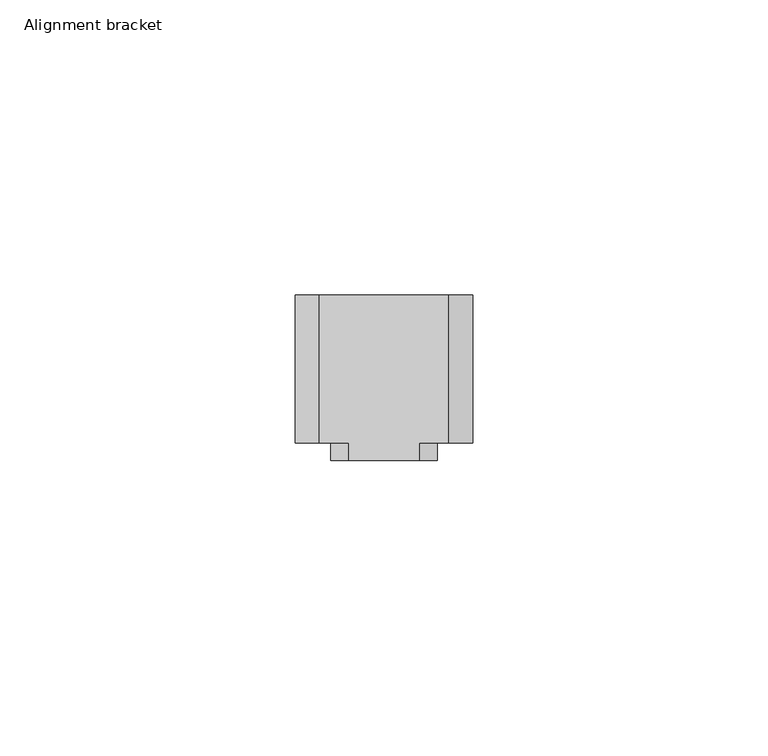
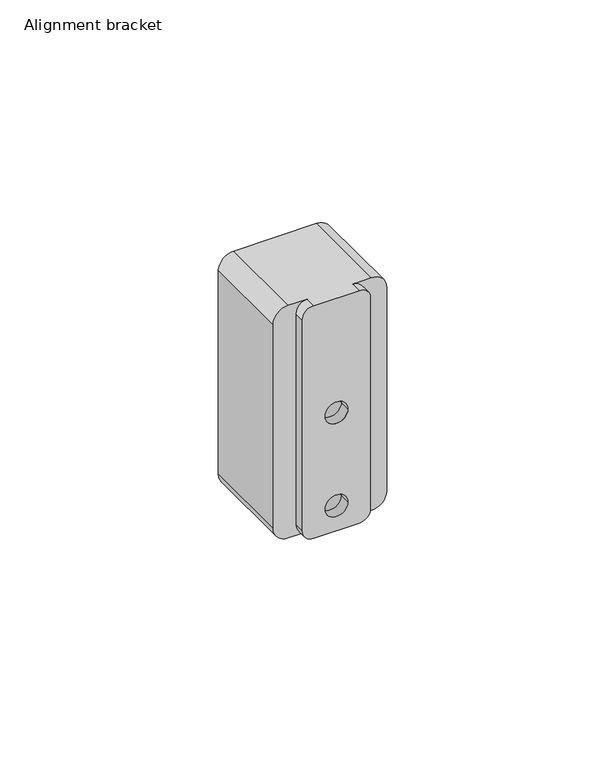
"""IFC4 building model written with IfcOpenShell, lengths in millimetres: proxy geometry, GROVIK_Gutter_Alignment bracket : Alignment bracket."""

from ifc_helpers import new_model, si_unit, frame, origin, place, context, project, spatial, polyline, circle_curve, source, transform, mapped, element, save
from ifc_brep_helpers import plane_surface, cylinder_surface, revolved_surface, advanced_brep


def alignment_bracket_76c64be8(model_context):
    return source(origin(), model_context, "Body", "AdvancedBrep", [
        advanced_brep(
        [(-6.5, 5.5, 62.5), (-6.5, 5.5, 34.25), (-12.5, 5.5, 34.25), (-12.5, 5.5, 61.0), (-11.0, 5.5, 62.5), (6.5, 5.5, 34.25), (6.5, 5.5, 62.5), (11.0, 5.5, 62.5), (12.5, 5.5, 61.0), (12.5, 5.5, 34.25), (6.5, 5.5, 2.5), (6.5, 5.5, 31.75), (12.5, 5.5, 31.75), (12.5, 5.5, 4.0), (11.0, 5.5, 2.5), (-6.5, 5.5, 31.75), (-6.5, 5.5, 2.5), (-11.0, 5.5, 2.5), (-12.5, 5.5, 4.0), (-12.5, 5.5, 31.75), (-15.0, 3.0, 4.0), (-11.0, 3.0, 0.0), (-6.0, 3.0, 0.0), (-9.0, 3.0, 3.0), (-9.0, 3.0, 62.0), (-6.0, 3.0, 65.0), (-11.0, 3.0, 65.0), (-15.0, 3.0, 61.0), (11.0, 3.0, 0.0), (15.0, 3.0, 4.0), (15.0, 3.0, 61.0), (11.0, 3.0, 65.0), (6.0, 3.0, 65.0), (9.0, 3.0, 62.0), (9.0, 3.0, 3.0), (6.0, 3.0, 0.0), (-6.5, 3.0, 62.5), (-6.5, 3.0, 34.25), (6.5, 3.0, 34.25), (6.5, 3.0, 62.5), (6.5, 3.0, 2.5), (6.5, 3.0, 31.75), (-6.5, 3.0, 31.75), (-6.5, 3.0, 2.5), (-15.0, 28.0, 4.0), (-15.0, 28.0, 61.0), (-11.0, 28.0, 65.0), (11.0, 28.0, 65.0), (15.0, 28.0, 61.0), (15.0, 28.0, 4.0), (11.0, 28.0, 0.0), (-11.0, 28.0, 0.0), (-12.5, 28.0, 34.25), (-5.3560713, 28.0, 34.25), (5.3560713, 28.0, 34.25), (12.5, 28.0, 34.25), (12.5, 28.0, 61.0), (11.0, 28.0, 62.5), (-11.0, 28.0, 62.5), (-12.5, 28.0, 61.0), (5.3560713, 28.0, 31.75), (-5.3560713, 28.0, 31.75), (-12.5, 28.0, 31.75), (-12.5, 28.0, 4.0), (-11.0, 28.0, 2.5), (-3.1622777, 28.0, 2.5), (3.1622777, 28.0, 2.5), (11.0, 28.0, 2.5), (12.5, 28.0, 4.0), (12.5, 28.0, 31.75), (-3.0, 28.0, 33.0), (3.0, 28.0, 33.0), (-3.0, 28.0, 7.0), (3.0, 28.0, 7.0), (5.3560713, 3.0, 34.25), (-5.3560713, 3.0, 34.25), (6.0, 0.0, 0.0), (-6.0, 0.0, 0.0), (-6.0, 0.0, 65.0), (6.0, 0.0, 65.0), (5.3560713, 3.0, 31.75), (3.1622777, 3.0, 2.5), (-3.1622777, 3.0, 2.5), (-5.3560713, 3.0, 31.75), (3.0, 3.0, 33.0), (-3.0, 3.0, 33.0), (3.0, 3.0, 7.0), (-3.0, 3.0, 7.0), (-9.0, 0.0, 3.0), (9.0, 0.0, 3.0), (9.0, 0.0, 62.0), (-9.0, 0.0, 62.0), (-3.0, 0.0, 33.0), (3.0, 0.0, 33.0), (-3.0, 0.0, 7.0), (3.0, 0.0, 7.0)],
        [
            (0, 1),
            (1, 2),
            (2, 3),
            (3, 4, circle_curve(frame((-11.0, 5.5, 61.0), z_axis=(0.0, 1.0, 0.0), x_axis=(-1.0, 0.0, 0.0)), 1.5)),
            (4, 0),
            (5, 6),
            (6, 7),
            (7, 8, circle_curve(frame((11.0, 5.5, 61.0), z_axis=(0.0, 1.0, 0.0), x_axis=(1.0, 0.0, 0.0)), 1.5)),
            (8, 9),
            (9, 5),
            (10, 11),
            (11, 12),
            (12, 13),
            (13, 14, circle_curve(frame((11.0, 5.5, 4.0), z_axis=(0.0, 1.0, 0.0), x_axis=(1.0, 0.0, 0.0)), 1.5)),
            (14, 10),
            (15, 16),
            (16, 17),
            (17, 18, circle_curve(frame((-11.0, 5.5, 4.0), z_axis=(0.0, 1.0, 0.0), x_axis=(-1.0, 0.0, 0.0)), 1.5)),
            (18, 19),
            (19, 15),
            (20, 21, circle_curve(frame((-11.0, 3.0, 4.0), z_axis=(0.0, -1.0, 0.0), x_axis=(-1.0, 0.0, 0.0)), 4.0)),
            (21, 22),
            (22, 23, circle_curve(frame((-6.0, 3.0, 3.0), z_axis=(0.0, 1.0, 0.0), x_axis=(-1.0, 0.0, 0.0)), 3.0)),
            (23, 24),
            (24, 25, circle_curve(frame((-6.0, 3.0, 62.0), z_axis=(0.0, 1.0, 0.0), x_axis=(-1.0, 0.0, 0.0)), 3.0)),
            (25, 26),
            (26, 27, circle_curve(frame((-11.0, 3.0, 61.0), z_axis=(0.0, -1.0, 0.0), x_axis=(-1.0, 0.0, 0.0)), 4.0)),
            (27, 20),
            (28, 29, circle_curve(frame((11.0, 3.0, 4.0), z_axis=(0.0, -1.0, 0.0), x_axis=(1.0, 0.0, 0.0)), 4.0)),
            (29, 30),
            (30, 31, circle_curve(frame((11.0, 3.0, 61.0), z_axis=(0.0, -1.0, 0.0), x_axis=(1.0, 0.0, 0.0)), 4.0)),
            (31, 32),
            (32, 33, circle_curve(frame((6.0, 3.0, 62.0), z_axis=(0.0, 1.0, 0.0), x_axis=(1.0, 0.0, 0.0)), 3.0)),
            (33, 34),
            (34, 35, circle_curve(frame((6.0, 3.0, 3.0), z_axis=(0.0, 1.0, 0.0), x_axis=(1.0, 0.0, 0.0)), 3.0)),
            (35, 28),
            (0, 36),
            (36, 37),
            (37, 1),
            (5, 38),
            (38, 39),
            (39, 6),
            (10, 40),
            (40, 41),
            (41, 11),
            (15, 42),
            (42, 43),
            (43, 16),
            (44, 45),
            (45, 46, circle_curve(frame((-11.0, 28.0, 61.0), z_axis=(0.0, 1.0, 0.0), x_axis=(-1.0, 0.0, 0.0)), 4.0)),
            (46, 47),
            (47, 48, circle_curve(frame((11.0, 28.0, 61.0), z_axis=(0.0, 1.0, 0.0), x_axis=(1.0, 0.0, 0.0)), 4.0)),
            (48, 49),
            (49, 50, circle_curve(frame((11.0, 28.0, 4.0), z_axis=(0.0, 1.0, 0.0), x_axis=(1.0, 0.0, 0.0)), 4.0)),
            (50, 51),
            (51, 44, circle_curve(frame((-11.0, 28.0, 4.0), z_axis=(0.0, 1.0, 0.0), x_axis=(-1.0, 0.0, 0.0)), 4.0)),
            (52, 53),
            (53, 54, circle_curve(frame((0.0, 28.0, 33.0), z_axis=(0.0, 1.0, 0.0), x_axis=(1.0, 0.0, 0.0)), 5.5)),
            (54, 55),
            (55, 56),
            (56, 57, circle_curve(frame((11.0, 28.0, 61.0), z_axis=(0.0, -1.0, 0.0), x_axis=(1.0, 0.0, 0.0)), 1.5)),
            (57, 58),
            (58, 59, circle_curve(frame((-11.0, 28.0, 61.0), z_axis=(0.0, -1.0, 0.0), x_axis=(-1.0, 0.0, 0.0)), 1.5)),
            (59, 52),
            (60, 61, circle_curve(frame((0.0, 28.0, 33.0), z_axis=(0.0, 1.0, 0.0), x_axis=(1.0, 0.0, 0.0)), 5.5)),
            (61, 62),
            (62, 63),
            (63, 64, circle_curve(frame((-11.0, 28.0, 4.0), z_axis=(0.0, -1.0, 0.0), x_axis=(-1.0, 0.0, 0.0)), 1.5)),
            (64, 65),
            (65, 66, circle_curve(frame((0.0, 28.0, 7.0), z_axis=(0.0, 1.0, 0.0), x_axis=(1.0, 0.0, 0.0)), 5.5)),
            (66, 67),
            (67, 68, circle_curve(frame((11.0, 28.0, 4.0), z_axis=(0.0, -1.0, 0.0), x_axis=(1.0, 0.0, 0.0)), 1.5)),
            (68, 69),
            (69, 60),
            (70, 71, circle_curve(frame((0.0, 28.0, 33.0), z_axis=(0.0, -1.0, 0.0), x_axis=(1.0, 0.0, 0.0)), 3.0)),
            (71, 70, circle_curve(frame((0.0, 28.0, 33.0), z_axis=(0.0, -1.0, 0.0), x_axis=(1.0, 0.0, 0.0)), 3.0)),
            (72, 73, circle_curve(frame((0.0, 28.0, 7.0), z_axis=(0.0, -1.0, 0.0), x_axis=(1.0, 0.0, 0.0)), 3.0)),
            (73, 72, circle_curve(frame((0.0, 28.0, 7.0), z_axis=(0.0, -1.0, 0.0), x_axis=(1.0, 0.0, 0.0)), 3.0)),
            (59, 3),
            (2, 52),
            (58, 4),
            (57, 7),
            (39, 36),
            (56, 8),
            (55, 9),
            (54, 74),
            (74, 38),
            (53, 75),
            (75, 74, circle_curve(frame((0.0, 3.0, 33.0), z_axis=(0.0, 1.0, 0.0), x_axis=(1.0, 0.0, 0.0)), 5.5)),
            (37, 75),
            (51, 21),
            (20, 44),
            (50, 28),
            (35, 76),
            (76, 77),
            (77, 22),
            (49, 29),
            (48, 30),
            (47, 31),
            (46, 26),
            (25, 78),
            (78, 79),
            (79, 32),
            (45, 27),
            (69, 12),
            (41, 80),
            (80, 60),
            (68, 13),
            (67, 14),
            (66, 81),
            (81, 40),
            (65, 82),
            (82, 81, circle_curve(frame((0.0, 3.0, 7.0), z_axis=(0.0, 1.0, 0.0), x_axis=(1.0, 0.0, 0.0)), 5.5)),
            (64, 17),
            (43, 82),
            (63, 18),
            (62, 19),
            (61, 83),
            (83, 42),
            (80, 83, circle_curve(frame((0.0, 3.0, 33.0), z_axis=(0.0, 1.0, 0.0), x_axis=(1.0, 0.0, 0.0)), 5.5)),
            (71, 84),
            (84, 85, circle_curve(frame((0.0, 3.0, 33.0), z_axis=(0.0, -1.0, 0.0), x_axis=(1.0, 0.0, 0.0)), 3.0)),
            (85, 70),
            (85, 84, circle_curve(frame((0.0, 3.0, 33.0), z_axis=(0.0, -1.0, 0.0), x_axis=(1.0, 0.0, 0.0)), 3.0)),
            (73, 86),
            (86, 87, circle_curve(frame((0.0, 3.0, 7.0), z_axis=(0.0, -1.0, 0.0), x_axis=(1.0, 0.0, 0.0)), 3.0)),
            (87, 72),
            (87, 86, circle_curve(frame((0.0, 3.0, 7.0), z_axis=(0.0, -1.0, 0.0), x_axis=(1.0, 0.0, 0.0)), 3.0)),
            (88, 77, circle_curve(frame((-6.0, 0.0, 3.0), z_axis=(0.0, -1.0, 0.0), x_axis=(-1.0, 0.0, 0.0)), 3.0)),
            (76, 89, circle_curve(frame((6.0, 0.0, 3.0), z_axis=(0.0, -1.0, 0.0), x_axis=(1.0, 0.0, 0.0)), 3.0)),
            (89, 90),
            (90, 79, circle_curve(frame((6.0, 0.0, 62.0), z_axis=(0.0, -1.0, 0.0), x_axis=(1.0, 0.0, 0.0)), 3.0)),
            (78, 91, circle_curve(frame((-6.0, 0.0, 62.0), z_axis=(0.0, -1.0, 0.0), x_axis=(-1.0, 0.0, 0.0)), 3.0)),
            (91, 88),
            (92, 93, circle_curve(frame((0.0, 0.0, 33.0), z_axis=(0.0, 1.0, 0.0), x_axis=(1.0, 0.0, 0.0)), 3.0)),
            (93, 92, circle_curve(frame((0.0, 0.0, 33.0), z_axis=(0.0, 1.0, 0.0), x_axis=(1.0, 0.0, 0.0)), 3.0)),
            (94, 95, circle_curve(frame((0.0, 0.0, 7.0), z_axis=(0.0, 1.0, 0.0), x_axis=(1.0, 0.0, 0.0)), 3.0)),
            (95, 94, circle_curve(frame((0.0, 0.0, 7.0), z_axis=(0.0, 1.0, 0.0), x_axis=(1.0, 0.0, 0.0)), 3.0)),
            (88, 23),
            (34, 89),
            (33, 90),
            (24, 91),
            (92, 85),
            (84, 93),
            (94, 87),
            (86, 95),
        ],
        [
            plane_surface(frame((-12.5, 5.5, 34.25), z_axis=(0.0, 1.0, 0.0), x_axis=(-1.0, 0.0, 0.0))),
            plane_surface(frame((-12.5, 3.0, 34.25), z_axis=(0.0, -1.0, 0.0), x_axis=(1.0, 0.0, 0.0))),
            plane_surface(frame((-6.5, 3.0, 34.25), z_axis=(1.0, 0.0, 0.0), x_axis=(0.0, 1.0, 0.0))),
            plane_surface(frame((6.5, 3.0, 62.5), z_axis=(-1.0, 0.0, 0.0), x_axis=(0.0, 1.0, 0.0))),
            plane_surface(frame((6.5, 3.0, 31.75), z_axis=(-1.0, 0.0, 0.0), x_axis=(0.0, 1.0, 0.0))),
            plane_surface(frame((-6.5, 3.0, 2.5), z_axis=(1.0, 0.0, 0.0), x_axis=(0.0, 1.0, 0.0))),
            plane_surface(frame((-12.5, 28.0, 61.0), z_axis=(0.0, 1.0, 0.0), x_axis=(0.0, 0.0, -1.0))),
            plane_surface(frame((-12.5, 3.0, 34.25), z_axis=(1.0, 0.0, 0.0), x_axis=(0.0, 1.0, 0.0))),
            revolved_surface(polyline([(-12.5, 28.0, 61.0), (-12.5, 5.5, 61.0)]), (-11.0, 28.0, 61.0), (0.0, 1.0, 0.0)),
            plane_surface(frame((-11.0, 3.0, 62.5), z_axis=(0.0, 0.0, -1.0), x_axis=(0.0, 1.0, 0.0))),
            revolved_surface(polyline([(12.5, 28.0, 61.0), (12.5, 5.5, 61.0)]), (11.0, 28.0, 61.0), (0.0, 1.0, 0.0)),
            plane_surface(frame((12.5, 3.0, 61.0), z_axis=(-1.0, 0.0, 0.0), x_axis=(0.0, 1.0, 0.0))),
            plane_surface(frame((12.5, 3.0, 34.25), z_axis=(0.0, 0.0, 1.0), x_axis=(0.0, 1.0, 0.0))),
            cylinder_surface(frame((0.0, 28.0, 33.0), z_axis=(0.0, -1.0, 0.0), x_axis=(1.0, 0.0, 0.0)), 5.5),
            plane_surface(frame((-5.3560713, 3.0, 34.25), z_axis=(0.0, 0.0, 1.0), x_axis=(0.0, 1.0, 0.0))),
            cylinder_surface(frame((-11.0, 0.0, 4.0), z_axis=(0.0, -1.0, 0.0), x_axis=(-1.0, 0.0, 0.0)), 4.0),
            plane_surface(frame((-11.0, 3.0, 0.0), z_axis=(0.0, 0.0, -1.0), x_axis=(0.0, 1.0, 0.0))),
            cylinder_surface(frame((11.0, 0.0, 4.0), z_axis=(0.0, -1.0, 0.0), x_axis=(1.0, 0.0, 0.0)), 4.0),
            plane_surface(frame((15.0, 3.0, 4.0), z_axis=(1.0, 0.0, 0.0), x_axis=(0.0, 1.0, 0.0))),
            cylinder_surface(frame((11.0, 0.0, 61.0), z_axis=(0.0, -1.0, 0.0), x_axis=(1.0, 0.0, 0.0)), 4.0),
            plane_surface(frame((11.0, 3.0, 65.0), z_axis=(0.0, 0.0, 1.0), x_axis=(0.0, 1.0, 0.0))),
            cylinder_surface(frame((-11.0, 0.0, 61.0), z_axis=(0.0, -1.0, 0.0), x_axis=(-1.0, 0.0, 0.0)), 4.0),
            plane_surface(frame((-15.0, 3.0, 61.0), z_axis=(-1.0, 0.0, 0.0), x_axis=(0.0, 1.0, 0.0))),
            plane_surface(frame((5.3560713, 3.0, 31.75), z_axis=(0.0, 0.0, -1.0), x_axis=(0.0, 1.0, 0.0))),
            plane_surface(frame((12.5, 3.0, 31.75), z_axis=(-1.0, 0.0, 0.0), x_axis=(0.0, 1.0, 0.0))),
            revolved_surface(polyline([(12.5, 28.0, 4.0), (12.5, 5.5, 4.0)]), (11.0, 0.0, 4.0), (0.0, 1.0, 0.0)),
            plane_surface(frame((11.0, 3.0, 2.5), z_axis=(0.0, 0.0, 1.0), x_axis=(0.0, 1.0, 0.0))),
            cylinder_surface(frame((0.0, 0.0, 7.0), z_axis=(0.0, -1.0, 0.0), x_axis=(1.0, 0.0, 0.0)), 5.5),
            plane_surface(frame((-3.1622777, 3.0, 2.5), z_axis=(0.0, 0.0, 1.0), x_axis=(0.0, 1.0, 0.0))),
            revolved_surface(polyline([(-12.5, 28.0, 4.0), (-12.5, 5.5, 4.0)]), (-11.0, 0.0, 4.0), (0.0, 1.0, 0.0)),
            plane_surface(frame((-12.5, 3.0, 4.0), z_axis=(1.0, 0.0, 0.0), x_axis=(0.0, 1.0, 0.0))),
            plane_surface(frame((-12.5, 3.0, 31.75), z_axis=(0.0, 0.0, -1.0), x_axis=(0.0, 1.0, 0.0))),
            cylinder_surface(frame((0.0, 0.0, 33.0), z_axis=(0.0, -1.0, 0.0), x_axis=(1.0, 0.0, 0.0)), 5.5),
            revolved_surface(polyline([(3.0, 28.0, 33.0), (3.0, 3.0, 33.0)]), (0.0, 0.0, 33.0), (0.0, 1.0, 0.0)),
            revolved_surface(polyline([(3.0, 28.0, 7.0), (3.0, 3.0, 7.0)]), (0.0, 0.0, 7.0), (0.0, 1.0, 0.0)),
            plane_surface(frame((-9.0, 3.0, 3.0), z_axis=(0.0, 1.0, 0.0), x_axis=(0.0, 0.0, 1.0))),
            plane_surface(frame((-9.0, 0.0, 3.0), z_axis=(0.0, -1.0, 0.0), x_axis=(0.0, 0.0, -1.0))),
            cylinder_surface(frame((-6.0, 3.0, 3.0), z_axis=(0.0, -1.0, 0.0), x_axis=(-1.0, 0.0, 0.0)), 3.0),
            cylinder_surface(frame((6.0, 3.0, 3.0), z_axis=(0.0, -1.0, 0.0), x_axis=(1.0, 0.0, 0.0)), 3.0),
            plane_surface(frame((9.0, 0.0, 3.0), z_axis=(1.0, 0.0, 0.0), x_axis=(0.0, 1.0, 0.0))),
            cylinder_surface(frame((6.0, 3.0, 62.0), z_axis=(0.0, -1.0, 0.0), x_axis=(1.0, 0.0, 0.0)), 3.0),
            cylinder_surface(frame((-6.0, 3.0, 62.0), z_axis=(0.0, -1.0, 0.0), x_axis=(-1.0, 0.0, 0.0)), 3.0),
            plane_surface(frame((-9.0, 0.0, 62.0), z_axis=(-1.0, 0.0, 0.0), x_axis=(0.0, 1.0, 0.0))),
            revolved_surface(polyline([(3.0, 3.0, 33.0), (3.0, 0.0, 33.0)]), (0.0, 0.0, 33.0), (0.0, 1.0, 0.0)),
            revolved_surface(polyline([(3.0, 3.0, 7.0), (3.0, 0.0, 7.0)]), (0.0, 0.0, 7.0), (0.0, 1.0, 0.0)),
        ],
        [
            (0, [[1, 2, 3, 4, 5]]),
            (0, [[6, 7, 8, 9, 10]]),
            (0, [[11, 12, 13, 14, 15]]),
            (0, [[16, 17, 18, 19, 20]]),
            (1, [[21, 22, 23, 24, 25, 26, 27, 28]]),
            (1, [[29, 30, 31, 32, 33, 34, 35, 36]]),
            (2, [[-1, 37, 38, 39]]),
            (3, [[-6, 40, 41, 42]]),
            (4, [[-11, 43, 44, 45]]),
            (5, [[-16, 46, 47, 48]]),
            (6, [[49, 50, 51, 52, 53, 54, 55, 56], [57, 58, 59, 60, 61, 62, 63, 64], [65, 66, 67, 68, 69, 70, 71, 72, 73, 74], [75, 76], [77, 78]]),
            (7, [[-64, 79, -3, 80]]),
            (8, [[-63, 81, -4, -79]]),
            (9, [[-62, 82, -7, -42, 83, -37, -5, -81]]),
            (10, [[-61, 84, -8, -82]]),
            (11, [[-60, 85, -9, -84]]),
            (12, [[-59, 86, 87, -40, -10, -85]]),
            (13, [[-58, 88, 89, -86]]),
            (14, [[-57, -80, -2, -39, 90, -88]]),
            (15, [[-56, 91, -21, 92]]),
            (16, [[-55, 93, -36, 94, 95, 96, -22, -91]]),
            (17, [[-54, 97, -29, -93]]),
            (18, [[-53, 98, -30, -97]]),
            (19, [[-52, 99, -31, -98]]),
            (20, [[-51, 100, -26, 101, 102, 103, -32, -99]]),
            (21, [[-50, 104, -27, -100]]),
            (22, [[-49, -92, -28, -104]]),
            (23, [[-74, 105, -12, -45, 106, 107]]),
            (24, [[-73, 108, -13, -105]]),
            (25, [[-72, 109, -14, -108]]),
            (26, [[-71, 110, 111, -43, -15, -109]]),
            (27, [[-70, 112, 113, -110]]),
            (28, [[-69, 114, -17, -48, 115, -112]]),
            (29, [[-68, 116, -18, -114]]),
            (30, [[-67, 117, -19, -116]]),
            (31, [[-66, 118, 119, -46, -20, -117]]),
            (32, [[-65, -107, 120, -118]]),
            (33, [[-76, 121, 122, 123]]),
            (33, [[-75, -123, 124, -121]]),
            (34, [[-78, 125, 126, 127]]),
            (34, [[-77, -127, 128, -125]]),
            (35, [[-38, -83, -41, -87, -89, -90]]),
            (35, [[-44, -111, -113, -115, -47, -119, -120, -106]]),
            (36, [[129, -95, 130, 131, 132, -102, 133, 134], [135, 136], [137, 138]]),
            (37, [[-129, 139, -23, -96]]),
            (38, [[-130, -94, -35, 140]]),
            (39, [[-131, -140, -34, 141]]),
            (40, [[-132, -141, -33, -103]]),
            (41, [[-133, -101, -25, 142]]),
            (42, [[-134, -142, -24, -139]]),
            (43, [[-135, 143, -122, 144]]),
            (43, [[-136, -144, -124, -143]]),
            (44, [[-137, 145, -126, 146]]),
            (44, [[-138, -146, -128, -145]]),
        ],
    ),
    ])


if __name__ == "__main__":
    model = new_model("IFC4")
    model_context = context("Model", 3, world=origin())
    ifc_project = project(units=[si_unit("LENGTHUNIT", "METRE", prefix="MILLI")], contexts=[model_context])
    site = spatial("IfcSite", under=ifc_project)
    building = spatial("IfcBuilding", under=site)
    placement = place(None, origin())
    alignment_bracket_shape = alignment_bracket_76c64be8(model_context)
    element("IfcBuildingElementProxy", 1, Name="GROVIK_Gutter_Alignment bracket : Alignment bracket", ObjectType="GROVIK_Gutter_Alignment bracket : Alignment bracket", at=placement, inside=building, context=model_context, shape_type="MappedRepresentation", body=[
        mapped(alignment_bracket_shape, transform((0.0, 0.0, 0.0), x_axis=(1.0, 0.0, 0.0), y_axis=(0.0, 1.0, 0.0), z_axis=(0.0, 0.0, 1.0))),
    ])
    save(model, "model.ifc")
